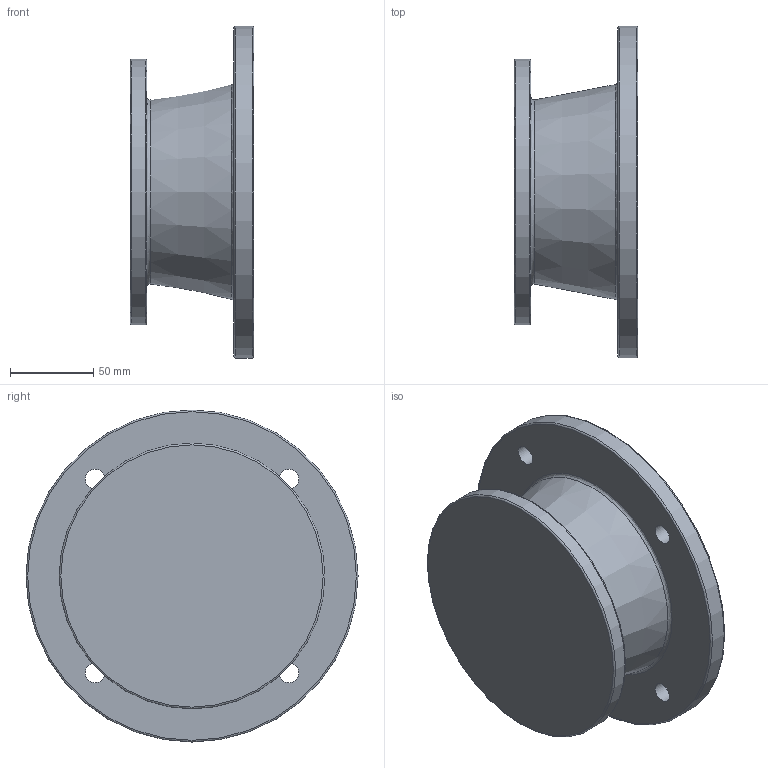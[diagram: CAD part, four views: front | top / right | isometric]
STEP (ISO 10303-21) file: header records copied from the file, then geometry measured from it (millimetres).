
FILE_DESCRIPTION((''),'2;1');
FILE_NAME('F:\PAWEŁ\ZLECENIA\2011 DualSystem\Przekładnie DK\001 Modele\DKAB50_\DK_50_STEP\90_B5_L74,5.stp','2012-08-20T11:52:44',('admin'),(''),'Autodesk Inventor 2009','Autodesk Inventor 2009','');
FILE_SCHEMA(('AUTOMOTIVE_DESIGN { 1 0 10303 214 1 1 1 1 }'));
Length unit declared in the file: millimetre
Products named in the file (1): 90_B5_L74,5
Bounding box: 74.5 x 200 x 200 mm (x, y, z)
Volume: 600516.9 mm3; surface area: 141745.4 mm2
Topology: 1 solids, 1 shells, 29 faces, 56 edges, 35 vertices
Faces by surface type: plane 11, bspline 6, torus 5, cylinder 5, cone 2
Full cylindrical faces by diameter (mm): 44 x1, 130 x1, 160 x1, 200 x1
Entity records: 874 total; most frequent: CARTESIAN_POINT 278, DIRECTION 116, ORIENTED_EDGE 78, EDGE_LOOP 60, AXIS2_PLACEMENT_3D 53, EDGE_CURVE 39, VERTEX_POINT 35, FACE_BOUND 31
